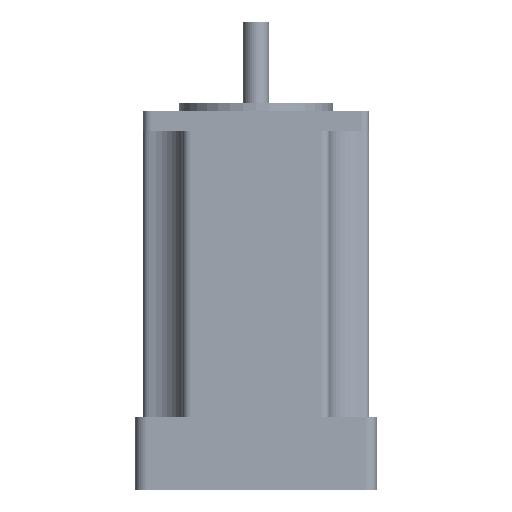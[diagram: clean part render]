
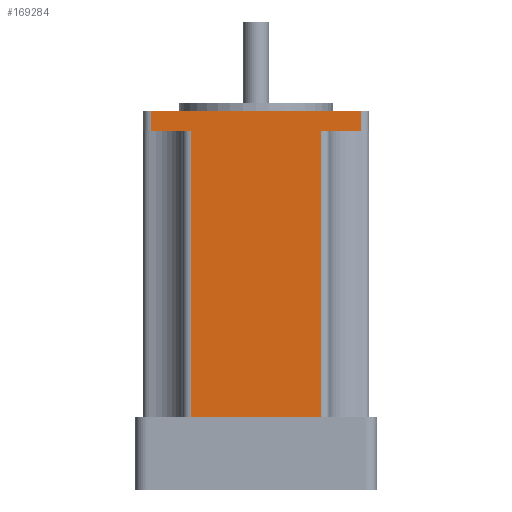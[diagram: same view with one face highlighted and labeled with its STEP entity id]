
A CAD part, left-side view. The second image highlights one B-rep face of the part: STEP entity #169284.
In plain terms, the highlighted planar face has unit normal (-1, 0, 0) as drawn and (1, 0, 0) by its records, which use the part's own axes.
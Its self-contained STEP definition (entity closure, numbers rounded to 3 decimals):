
#14485 = VERTEX_POINT ( 'NONE', #302250 ) ;
#15509 = ORIENTED_EDGE ( 'NONE', *, *, #298718, .F. ) ;
#15626 = ORIENTED_EDGE ( 'NONE', *, *, #58665, .T. ) ;
#18152 = VECTOR ( 'NONE', #274428, 1000. ) ;
#25726 = AXIS2_PLACEMENT_3D ( 'NONE', #382920, #45805, #181252 ) ;
#31288 = VERTEX_POINT ( 'NONE', #174687 ) ;
#40955 = CARTESIAN_POINT ( 'NONE',  ( 56., 0., 0. ) ) ;
#42611 = CARTESIAN_POINT ( 'NONE',  ( 56., 2., 76. ) ) ;
#43322 = CARTESIAN_POINT ( 'NONE',  ( 56., 2., 0. ) ) ;
#43404 = LINE ( 'NONE', #292655, #391078 ) ;
#43847 = DIRECTION ( 'NONE',  ( 0., 1., 0. ) ) ;
#44240 = LINE ( 'NONE', #87117, #176060 ) ;
#45805 = DIRECTION ( 'NONE',  ( -1., 0., 0. ) ) ;
#47139 = CARTESIAN_POINT ( 'NONE',  ( 56., 0., 5. ) ) ;
#49245 = LINE ( 'NONE', #47139, #407615 ) ;
#58665 = EDGE_CURVE ( 'NONE', #379027, #108776, #43404, .T. ) ;
#58942 = CARTESIAN_POINT ( 'NONE',  ( 56., 54., 76. ) ) ;
#61030 = VECTOR ( 'NONE', #412217, 1000. ) ;
#66896 = ORIENTED_EDGE ( 'NONE', *, *, #123096, .F. ) ;
#75566 = CARTESIAN_POINT ( 'NONE',  ( 56., 0., 5. ) ) ;
#79397 = EDGE_CURVE ( 'NONE', #417353, #242161, #350870, .T. ) ;
#79682 = PLANE ( 'NONE',  #25726 ) ;
#87117 = CARTESIAN_POINT ( 'NONE',  ( 56., 0., 76. ) ) ;
#89606 = DIRECTION ( 'NONE',  ( 0., 0., 1. ) ) ;
#92800 = DIRECTION ( 'NONE',  ( 0., 0., 1. ) ) ;
#108776 = VERTEX_POINT ( 'NONE', #435658 ) ;
#110444 = VECTOR ( 'NONE', #43847, 1000. ) ;
#123096 = EDGE_CURVE ( 'NONE', #417353, #108776, #49245, .T. ) ;
#124615 = EDGE_LOOP ( 'NONE', ( #66896, #303585, #391319, #262478, #339148, #293583, #15509, #15626 ) ) ;
#144496 = VERTEX_POINT ( 'NONE', #268501 ) ;
#147265 = CARTESIAN_POINT ( 'NONE',  ( 56., 11.832, 76. ) ) ;
#169284 = ADVANCED_FACE ( 'NONE', ( #255841 ), #79682, .F. ) ;
#174687 = CARTESIAN_POINT ( 'NONE',  ( 56., 44.168, 5. ) ) ;
#176060 = VECTOR ( 'NONE', #187257, 1000. ) ;
#181252 = DIRECTION ( 'NONE',  ( 0., 0., 1. ) ) ;
#187257 = DIRECTION ( 'NONE',  ( 0., 1., 0. ) ) ;
#189112 = LINE ( 'NONE', #58942, #357656 ) ;
#197495 = LINE ( 'NONE', #75566, #18152 ) ;
#199413 = EDGE_CURVE ( 'NONE', #31288, #243999, #249325, .T. ) ;
#223431 = DIRECTION ( 'NONE',  ( 0., 0., -1. ) ) ;
#242161 = VERTEX_POINT ( 'NONE', #43322 ) ;
#243999 = VERTEX_POINT ( 'NONE', #396046 ) ;
#249325 = LINE ( 'NONE', #361912, #370493 ) ;
#254523 = EDGE_CURVE ( 'NONE', #31288, #14485, #197495, .T. ) ;
#255841 = FACE_OUTER_BOUND ( 'NONE', #124615, .T. ) ;
#262478 = ORIENTED_EDGE ( 'NONE', *, *, #267855, .T. ) ;
#267855 = EDGE_CURVE ( 'NONE', #144496, #14485, #189112, .T. ) ;
#268501 = CARTESIAN_POINT ( 'NONE',  ( 56., 54., 0. ) ) ;
#274428 = DIRECTION ( 'NONE',  ( 0., 1., 0. ) ) ;
#292655 = CARTESIAN_POINT ( 'NONE',  ( 56., 11.832, 76. ) ) ;
#293583 = ORIENTED_EDGE ( 'NONE', *, *, #199413, .T. ) ;
#298718 = EDGE_CURVE ( 'NONE', #379027, #243999, #44240, .T. ) ;
#299185 = CARTESIAN_POINT ( 'NONE',  ( 56., 2., 5. ) ) ;
#302250 = CARTESIAN_POINT ( 'NONE',  ( 56., 54., 5. ) ) ;
#303585 = ORIENTED_EDGE ( 'NONE', *, *, #79397, .T. ) ;
#339148 = ORIENTED_EDGE ( 'NONE', *, *, #254523, .F. ) ;
#350870 = LINE ( 'NONE', #42611, #61030 ) ;
#353269 = DIRECTION ( 'NONE',  ( 0., 1., 0. ) ) ;
#357656 = VECTOR ( 'NONE', #92800, 1000. ) ;
#361912 = CARTESIAN_POINT ( 'NONE',  ( 56., 44.168, 76. ) ) ;
#363381 = LINE ( 'NONE', #40955, #110444 ) ;
#370493 = VECTOR ( 'NONE', #89606, 1000. ) ;
#379027 = VERTEX_POINT ( 'NONE', #147265 ) ;
#382920 = CARTESIAN_POINT ( 'NONE',  ( 56., 0., 76. ) ) ;
#391078 = VECTOR ( 'NONE', #223431, 1000. ) ;
#391319 = ORIENTED_EDGE ( 'NONE', *, *, #422262, .T. ) ;
#396046 = CARTESIAN_POINT ( 'NONE',  ( 56., 44.168, 76. ) ) ;
#407615 = VECTOR ( 'NONE', #353269, 1000. ) ;
#412217 = DIRECTION ( 'NONE',  ( 0., 0., -1. ) ) ;
#417353 = VERTEX_POINT ( 'NONE', #299185 ) ;
#422262 = EDGE_CURVE ( 'NONE', #242161, #144496, #363381, .T. ) ;
#435658 = CARTESIAN_POINT ( 'NONE',  ( 56., 11.832, 5. ) ) ;
